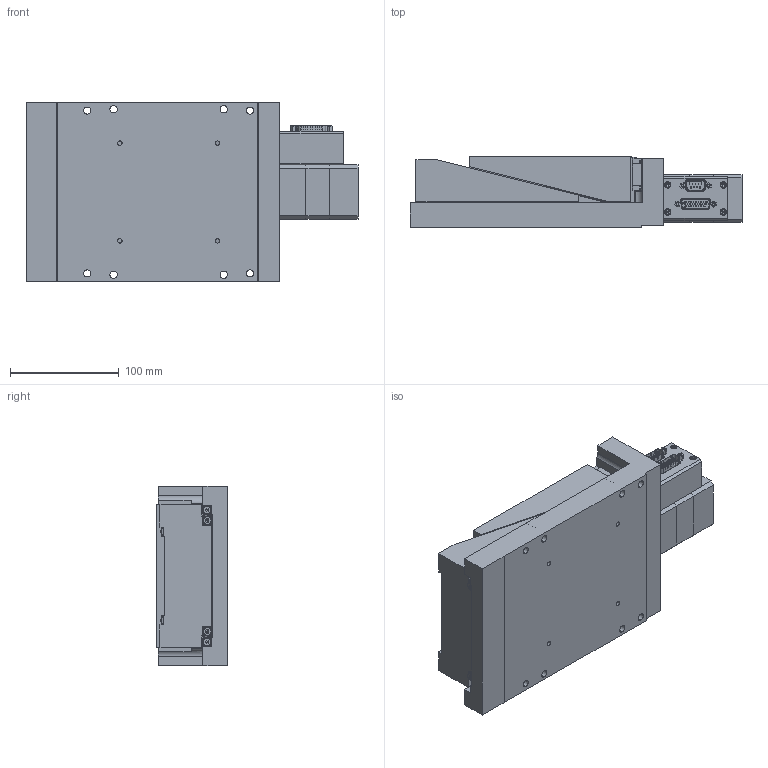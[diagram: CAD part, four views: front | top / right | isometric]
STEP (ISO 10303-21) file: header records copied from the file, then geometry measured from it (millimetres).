
FILE_DESCRIPTION (( 'STEP AP214' ), '1' );
FILE_NAME ('ELV-012-Brake-EXPORT.STEP', '2026-06-09T20:01:12', ( 'lab' ), ( '' ), 'SwSTEP 2.0', 'SolidWorks 2018', '' );
FILE_SCHEMA (( 'AUTOMOTIVE_DESIGN' ));
Length unit declared in the file: millimetre
Products named in the file (13): 1000008_file_export7; ELV-012-Brake-EXPORT; 1000005; 1000006; 1000010_file_export20; 1000011_file_export21; 1000011_file_export22; 1000003_file_export1; 1000002_file_export3; 1000007_file_export6; 1000004_file_export5; 1000009_file_export8; 1000001_file_export2
Assembly tree (21 placements, depth 2):
  ELV-012-Brake-EXPORT
    1000001_file_export2
    1000002_file_export3
    1000003_file_export1
    1000004_file_export5
    1000005
    1000006
    1000007_file_export6
    1000008_file_export7
    1000009_file_export8
    1000010_file_export20  x4
    1000011_file_export21  x4
    1000011_file_export22  x4
Bounding box: 306 x 66 x 165 mm (x, y, z)
Volume: 2288030 mm3; surface area: 352334.8 mm2
Topology: 88 solids, 88 shells, 2257 faces, 5241 edges, 3246 vertices
Faces by surface type: plane 1577, cylinder 358, bspline 170, cone 152
Entity records: 60117 total; most frequent: CARTESIAN_POINT 14664, ORIENTED_EDGE 8046, DIRECTION 7901, EDGE_CURVE 4023, LINE 2815, VECTOR 2815, VERTEX_POINT 2562, AXIS2_PLACEMENT_3D 2543
